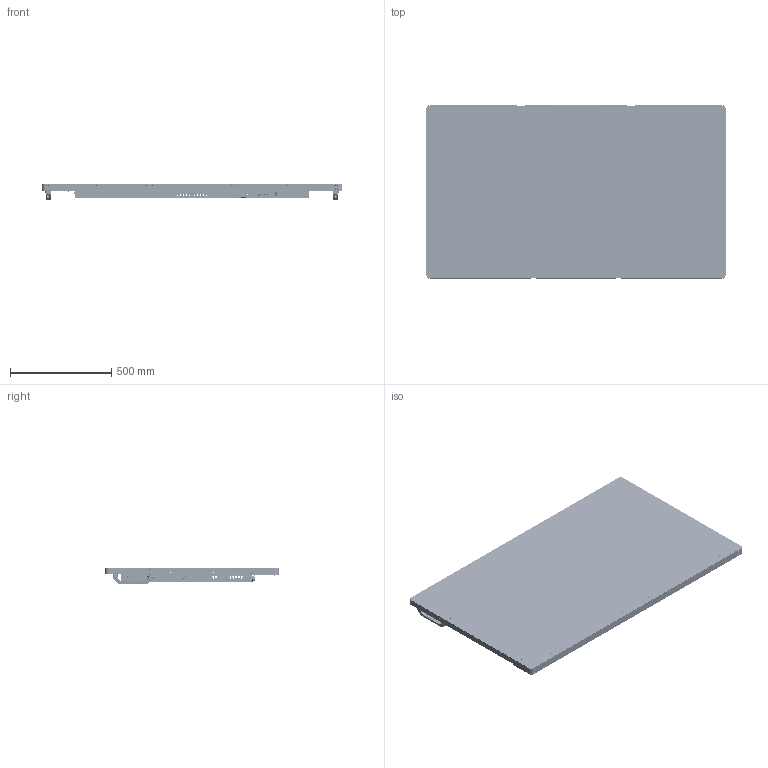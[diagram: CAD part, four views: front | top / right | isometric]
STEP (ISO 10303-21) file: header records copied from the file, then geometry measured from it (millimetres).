
FILE_DESCRIPTION (( 'STEP AP214' ), '1' );
FILE_NAME ('URP65-T.STEP', '2022-04-28T20:52:33', ( '' ), ( '' ), 'SwSTEP 2.0', 'SolidWorks 2021', '' );
FILE_SCHEMA (( 'AUTOMOTIVE_DESIGN' ));
Length unit declared in the file: millimetre
Products named in the file (1): URP65-T
Bounding box: 1482.68 x 857.52 x 78.79 mm (x, y, z)
Surface area: 9064913.8 mm2 (no closed solid volume)
Topology: 0 solids, 101 shells, 21163 faces, 59911 edges, 39464 vertices
Faces by surface type: cylinder 10916, plane 8551, bspline 1453, cone 243
Entity records: 1004809 total; most frequent: CARTESIAN_POINT 194274, DIRECTION 119732, ORIENTED_EDGE 119716, EDGE_CURVE 59866, AXIS2_PLACEMENT_3D 43167, VERTEX_POINT 39462, LINE 33398, VECTOR 33398
